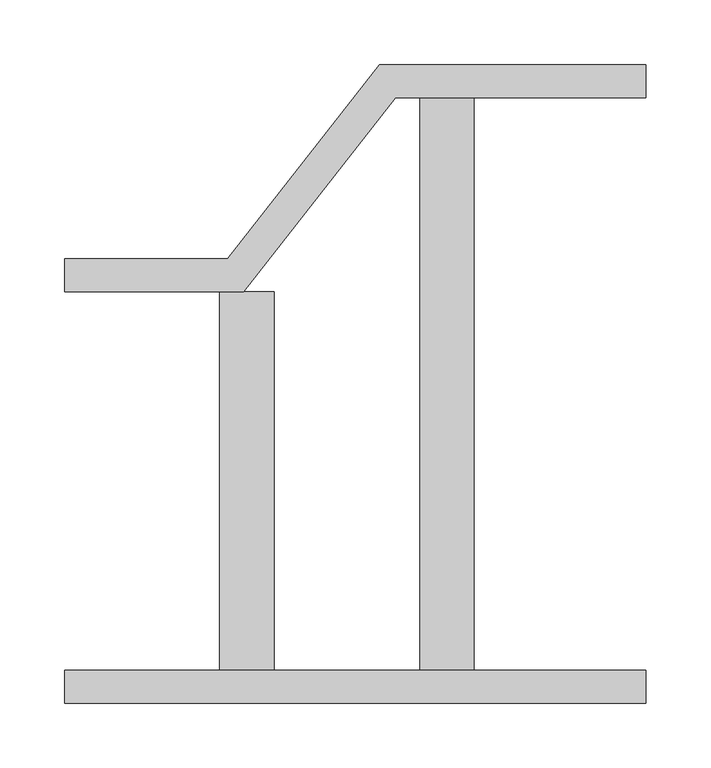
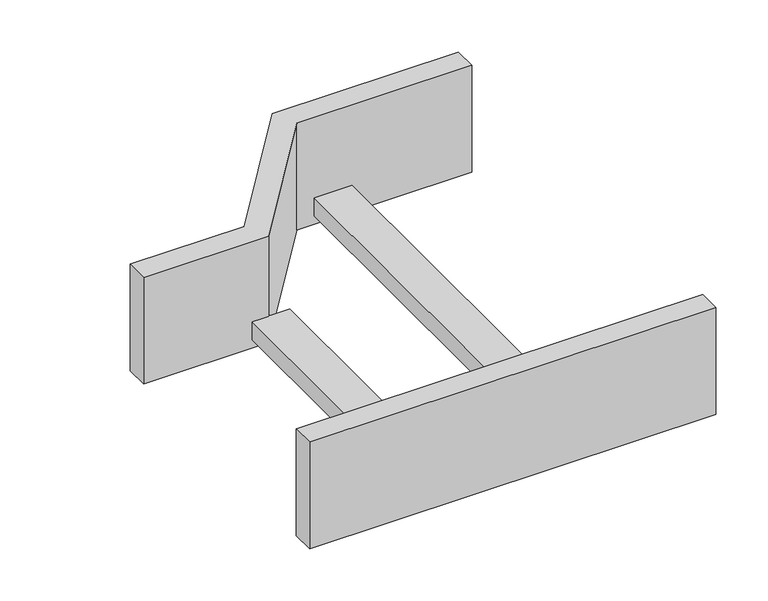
"""IFC4 building model written with IfcOpenShell, lengths in millimetres: cable carrier fitting geometry, Legrand_CableLadder_Swifts_Sapphire_Reducer-13 : Right Hand - Hot Dip Galvanised (after manufacture)."""

import ifcopenshell
import ifcopenshell.guid

model = None  # the IFC model being written
_history = None  # IfcOwnerHistory: only IFC2X3 demands one
_inside = {}  # id of a spatial element -> (the spatial element, [elements in it])
_under = {}  # id of a project, library or spatial element -> (it, [spatial elements below it])
_declared = {}  # id of a project -> (the project, [libraries it declares])
_typed = {}  # id of a type object -> (the type object, [elements of that type])
_made_of = {}  # id of a material, layer set ... -> (it, [elements and type objects made of it])


def new_model(schema):
    """Start an empty IFC model of exactly this schema.

    Asked for "IFC4X3", IfcOpenShell would pick the latest addendum, in which some entities
    have other attributes; the version numbers below select the first issue.
    IFC2X3 requires an IfcOwnerHistory on every rooted entity: one is made here for all.
    """
    global model, _history
    if schema == "IFC4X3":
        model = ifcopenshell.file(schema_version=(4, 3, 0, 0))
    else:
        model = ifcopenshell.file(schema=schema)
    _inside.clear()
    _under.clear()
    _declared.clear()
    _typed.clear()
    _made_of.clear()
    _history = None
    if model.schema == "IFC2X3":
        org = make("IfcOrganization", Name="unknown")
        user = make(
            "IfcPersonAndOrganization",
            ThePerson=make("IfcPerson", FamilyName="unknown"),
            TheOrganization=org,
        )
        app = make(
            "IfcApplication",
            ApplicationDeveloper=org,
            Version="unknown",
            ApplicationFullName="unknown",
            ApplicationIdentifier="unknown",
        )
        _history = make(
            "IfcOwnerHistory",
            OwningUser=user,
            OwningApplication=app,
            ChangeAction="ADDED",
            CreationDate=0,
        )
    return model


def make(cls, **values):
    """One entity of the class cls with the attributes given. An attribute that is None is left unset."""
    return model.create_entity(
        cls, **{name: value for name, value in values.items() if value is not None}
    )


def rooted(cls, **values):
    """An entity with a GlobalId (a new one), such as an element, a storey or a relation."""
    return make(cls, GlobalId=ifcopenshell.guid.new(), OwnerHistory=_history, **values)


def si_unit(unit_type, name, prefix=None):
    """IfcSIUnit, for example si_unit("LENGTHUNIT", "METRE", prefix="MILLI")."""
    return make("IfcSIUnit", UnitType=unit_type, Prefix=prefix, Name=name)


def assignment(units):
    """IfcUnitAssignment: the units of a project."""
    return None if units is None else make("IfcUnitAssignment", Units=units)


def point(xyz):
    """IfcCartesianPoint."""
    return None if xyz is None else make("IfcCartesianPoint", Coordinates=xyz)


def direction(xyz):
    """IfcDirection."""
    return None if xyz is None else make("IfcDirection", DirectionRatios=xyz)


def frame(location, z_axis=None, x_axis=None):
    """IfcAxis2Placement3D, a coordinate frame: its origin and axes. An axis left out is left unset."""
    return make(
        "IfcAxis2Placement3D",
        Location=point(location),
        Axis=direction(z_axis),
        RefDirection=direction(x_axis),
    )


def origin():
    """The frame at (0, 0, 0) with its axes left unset."""
    return frame((0.0, 0.0, 0.0))


def place(relative_to, where):
    """IfcLocalPlacement: puts the frame where relative to a parent placement (None: the world)."""
    return make(
        "IfcLocalPlacement", PlacementRelTo=relative_to, RelativePlacement=where
    )


def context(
    kind, dimensions, precision=None, world=None, true_north=None, identifier=None
):
    """IfcGeometricRepresentationContext, for example the 3D "Model" context."""
    return make(
        "IfcGeometricRepresentationContext",
        ContextIdentifier=identifier,
        ContextType=kind,
        CoordinateSpaceDimension=dimensions,
        Precision=precision,
        WorldCoordinateSystem=world,
        TrueNorth=true_north,
    )


def project(units=None, contexts=None):
    """IfcProject with its units and contexts."""
    return rooted(
        "IfcProject",
        Name="project",
        RepresentationContexts=contexts,
        UnitsInContext=assignment(units),
    )


def spatial(cls, under=None, at=None, **own):
    """A site, building, storey or space (cls), placed at a placement, below another one or the project."""
    s = rooted(cls, ObjectPlacement=at, **own)
    if under is not None:
        _under.setdefault(under.id(), (under, []))[1].append(s)
    return s


def polyline(points):
    """IfcPolyline through the points."""
    return make("IfcPolyline", Points=[point(p) for p in points])


def outline(outer, holes=None, kind="AREA"):
    """IfcArbitraryClosedProfileDef: a profile drawn as a closed curve; with holes, ...WithVoids."""
    if holes is None:
        return make("IfcArbitraryClosedProfileDef", ProfileType=kind, OuterCurve=outer)
    return make(
        "IfcArbitraryProfileDefWithVoids",
        ProfileType=kind,
        OuterCurve=outer,
        InnerCurves=holes,
    )


def extrude(swept, where, along, depth):
    """IfcExtrudedAreaSolid: the profile swept, set in the frame where, extruded along a direction by depth."""
    return make(
        "IfcExtrudedAreaSolid",
        SweptArea=swept,
        Position=where,
        ExtrudedDirection=direction(along),
        Depth=depth,
    )


def shape(context_of_items, identifier, shape_type, items):
    """IfcShapeRepresentation: the items that make up one representation, for example the "Body"."""
    return make(
        "IfcShapeRepresentation",
        ContextOfItems=context_of_items,
        RepresentationIdentifier=identifier,
        RepresentationType=shape_type,
        Items=items,
    )


def source(mapping_origin, context_of_items, identifier, shape_type, items):
    """IfcRepresentationMap: a shape defined once, which mapped items show again and again."""
    return make(
        "IfcRepresentationMap",
        MappingOrigin=mapping_origin,
        MappedRepresentation=shape(context_of_items, identifier, shape_type, items),
    )


def transform(
    local_origin,
    x_axis=None,
    y_axis=None,
    z_axis=None,
    scale=None,
    scale2=None,
    scale3=None,
    uniform=True,
):
    """IfcCartesianTransformationOperator3D, or its non-uniform kind. x_axis, y_axis, z_axis: its Axis1, 2, 3."""
    if uniform:
        return make(
            "IfcCartesianTransformationOperator3D",
            Axis1=direction(x_axis),
            Axis2=direction(y_axis),
            LocalOrigin=point(local_origin),
            Scale=scale,
            Axis3=direction(z_axis),
        )
    return make(
        "IfcCartesianTransformationOperator3DnonUniform",
        Axis1=direction(x_axis),
        Axis2=direction(y_axis),
        LocalOrigin=point(local_origin),
        Scale=scale,
        Axis3=direction(z_axis),
        Scale2=scale2,
        Scale3=scale3,
    )


def mapped(mapping_source, mapping_target):
    """IfcMappedItem: shows the shape of a source again, moved by a transform."""
    return make(
        "IfcMappedItem", MappingSource=mapping_source, MappingTarget=mapping_target
    )


def made_of(thing, what):
    """Note that an element or type object is made of a material, layer set ...; save() writes the relation."""
    if what is not None:
        _made_of.setdefault(what.id(), (what, []))[1].append(thing)
    return thing


def element(
    cls,
    number,
    at=None,
    inside=None,
    cuts=None,
    type_object=None,
    material=None,
    context=None,
    identifier="Body",
    shape_type=None,
    held_by="IfcProductDefinitionShape",
    body=None,
    shapes=None,
    **own,
):
    """One element of the class cls, such as IfcWall. Its Tag is "e" and its number.

    at: its placement. inside: the storey or other place that contains it. cuts: it is an
    opening in that element (IfcRelVoidsElement). A single representation is given by context,
    identifier, shape_type and body (its items); several are given by shapes. held_by: the class
    of the entity that holds the representations. save() writes the other relations.
    """
    e = rooted(cls, Tag="e%d" % number, ObjectPlacement=at, **own)
    if body is not None:
        shapes = [shape(context, identifier, shape_type, body)]
    if shapes is not None:
        e.Representation = make(held_by, Representations=shapes)
    if inside is not None:
        _inside.setdefault(inside.id(), (inside, []))[1].append(e)
    if cuts is not None:
        rooted(
            "IfcRelVoidsElement", RelatingBuildingElement=cuts, RelatedOpeningElement=e
        )
    if type_object is not None:
        _typed.setdefault(type_object.id(), (type_object, []))[1].append(e)
    return made_of(e, material)


def aggregate(whole, parts):
    """IfcRelAggregates: a whole, such as a stair, and the parts it consists of."""
    return rooted("IfcRelAggregates", RelatingObject=whole, RelatedObjects=parts)


def save(model, path):
    """Write the relations noted so far, then the file.

    IfcRelAggregates (storeys below a building ...), IfcRelContainedInSpatialStructure (elements
    in a storey), IfcRelDefinesByType, IfcRelAssociatesMaterial and IfcRelDeclares: one each for
    every whole, place, type object, material and project.
    """
    for whole, parts in _under.values():
        aggregate(whole, parts)
    for where, things in _inside.values():
        rooted(
            "IfcRelContainedInSpatialStructure",
            RelatedElements=things,
            RelatingStructure=where,
        )
    for kind, things in _typed.values():
        rooted("IfcRelDefinesByType", RelatedObjects=things, RelatingType=kind)
    for what, things in _made_of.values():
        rooted("IfcRelAssociatesMaterial", RelatedObjects=things, RelatingMaterial=what)
    for by, libraries in _declared.values():
        rooted("IfcRelDeclares", RelatingContext=by, RelatedDefinitions=libraries)
    model.write(path)


def cable_carrier_fitting_5d45cd42(model_context):
    return source(origin(), model_context, "Body", "SweptSolid", [
        extrude(outline(polyline([(-225.0, 71.5), (-225.0, 97.0), (-98.8584536, 97.0), (18.7964757, 247.0), (225.0, 247.0), (225.0, 221.5), (31.2035243, 221.5), (-86.451405, 71.5), (-225.0, 71.5)])), frame((0.0, 0.0, -62.5), z_axis=(0.0, 0.0, 1.0), x_axis=(1.0, 0.0, 0.0)), (0.0, 0.0, 1.0), 125.0),
        extrude(outline(polyline([(225.0, -247.0), (-225.0, -247.0), (-225.0, -221.5), (225.0, -221.5), (225.0, -247.0)])), frame((0.0, 0.0, -62.5), z_axis=(0.0, 0.0, 1.0), x_axis=(1.0, 0.0, 0.0)), (0.0, 0.0, 1.0), 125.0),
        extrude(outline(polyline([(92.0, 221.5), (92.0, -221.5), (50.0, -221.5), (50.0, 221.5), (92.0, 221.5)])), frame((0.0, 0.0, -52.5), z_axis=(0.0, 0.0, 1.0), x_axis=(1.0, 0.0, 0.0)), (0.0, 0.0, 1.0), 21.0),
        extrude(outline(polyline([(-105.0, -221.5), (-105.0, 71.5), (-63.0, 71.5), (-63.0, -221.5), (-105.0, -221.5)])), frame((0.0, 0.0, -52.5), z_axis=(0.0, 0.0, 1.0), x_axis=(1.0, 0.0, 0.0)), (0.0, 0.0, 1.0), 21.0),
    ])


if __name__ == "__main__":
    model = new_model("IFC4")
    model_context = context("Model", 3, world=origin())
    ifc_project = project(units=[si_unit("LENGTHUNIT", "METRE", prefix="MILLI")], contexts=[model_context])
    site = spatial("IfcSite", under=ifc_project)
    building = spatial("IfcBuilding", under=site)
    placement = place(None, origin())
    cable_carrier_fitting_shape = cable_carrier_fitting_5d45cd42(model_context)
    element("IfcCableCarrierFitting", 1, ObjectType="Legrand_CableLadder_Swifts_Sapphire_Reducer-13 : Right Hand - Hot Dip Galvanised (after manufacture)", at=placement, inside=building, context=model_context, shape_type="MappedRepresentation", body=[
        mapped(cable_carrier_fitting_shape, transform((0.0, 0.0, 0.0), x_axis=(1.0, 0.0, 0.0), y_axis=(0.0, 1.0, 0.0), z_axis=(0.0, 0.0, 1.0))),
    ])
    save(model, "model.ifc")
